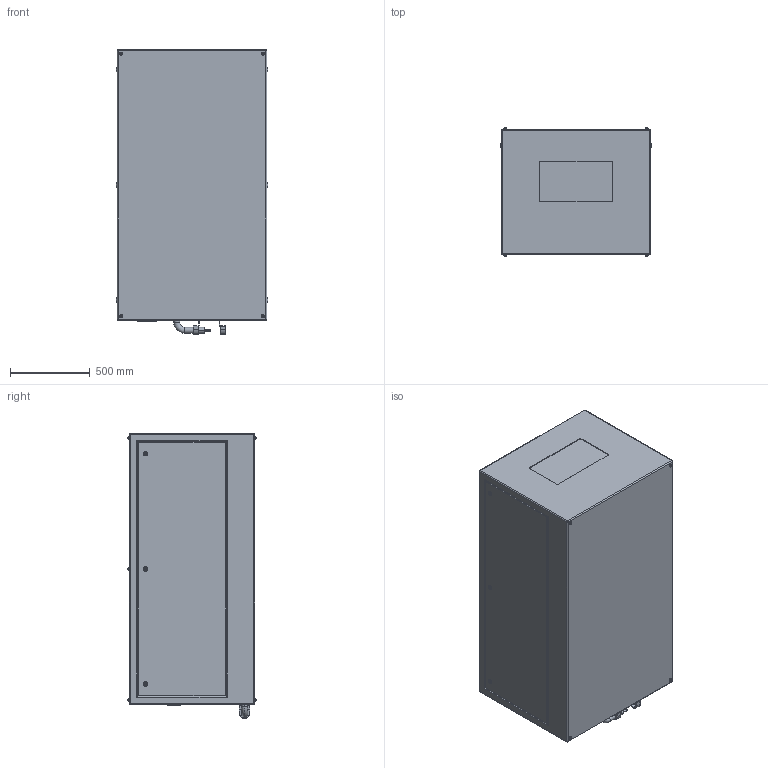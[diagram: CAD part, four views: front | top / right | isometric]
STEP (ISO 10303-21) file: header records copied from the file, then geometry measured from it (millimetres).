
FILE_DESCRIPTION (( 'STEP AP214' ), '1' );
FILE_NAME ('Oasis 59.320.L R02.STEP', '2022-08-27T16:10:57', ( '' ), ( '' ), 'SwSTEP 2.0', 'SolidWorks 2020', '' );
FILE_SCHEMA (( 'AUTOMOTIVE_DESIGN' ));
Length unit declared in the file: inch
Products named in the file (1): Oasis 59.320.L R02
Bounding box: 952.5 x 804.67 x 1790.7 mm (x, y, z)
Volume: 1258344246 mm3; surface area: 7852694.8 mm2
Topology: 2 solids, 8 shells, 495 faces, 1129 edges, 714 vertices
Faces by surface type: plane 271, cylinder 170, torus 46, bspline 8
Entity records: 18928 total; most frequent: CARTESIAN_POINT 2851, DIRECTION 2459, ORIENTED_EDGE 2242, EDGE_CURVE 1121, AXIS2_PLACEMENT_3D 882, VERTEX_POINT 714, VECTOR 695, LINE 695
